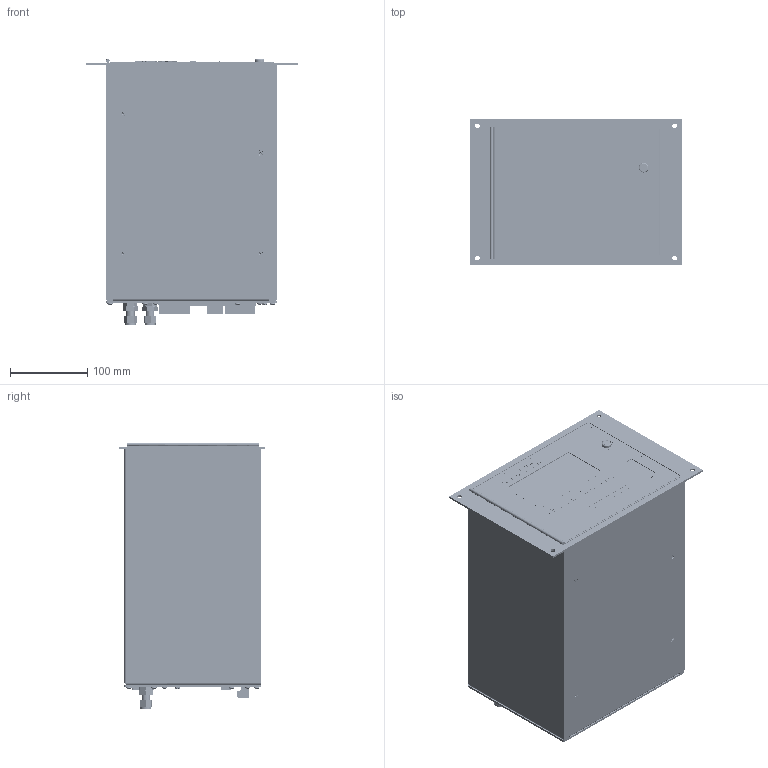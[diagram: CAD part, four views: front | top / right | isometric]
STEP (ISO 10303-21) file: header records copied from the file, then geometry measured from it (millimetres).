
FILE_DESCRIPTION (( 'STEP AP214' ), '1' );
FILE_NAME ('PI2-MS.STEP', '2025-10-21T16:19:19', ( '' ), ( '' ), 'SwSTEP 2.0', 'SolidWorks 2025', '' );
FILE_SCHEMA (( 'AUTOMOTIVE_DESIGN' ));
Length unit declared in the file: inch
Products named in the file (1): PI2-MS
Bounding box: 273.81 x 189.74 x 344.73 mm (x, y, z)
Volume: 2137950.7 mm3; surface area: 1921634.8 mm2
Topology: 501 solids, 501 shells, 20130 faces, 52095 edges, 33545 vertices
Faces by surface type: plane 8954, cylinder 5448, bspline 3477, cone 1762, torus 329, sphere 160
Entity records: 882713 total; most frequent: CARTESIAN_POINT 420194, ORIENTED_EDGE 103886, DIRECTION 80445, EDGE_CURVE 51943, VERTEX_POINT 33545, LINE 28941, VECTOR 28941, AXIS2_PLACEMENT_3D 25752
